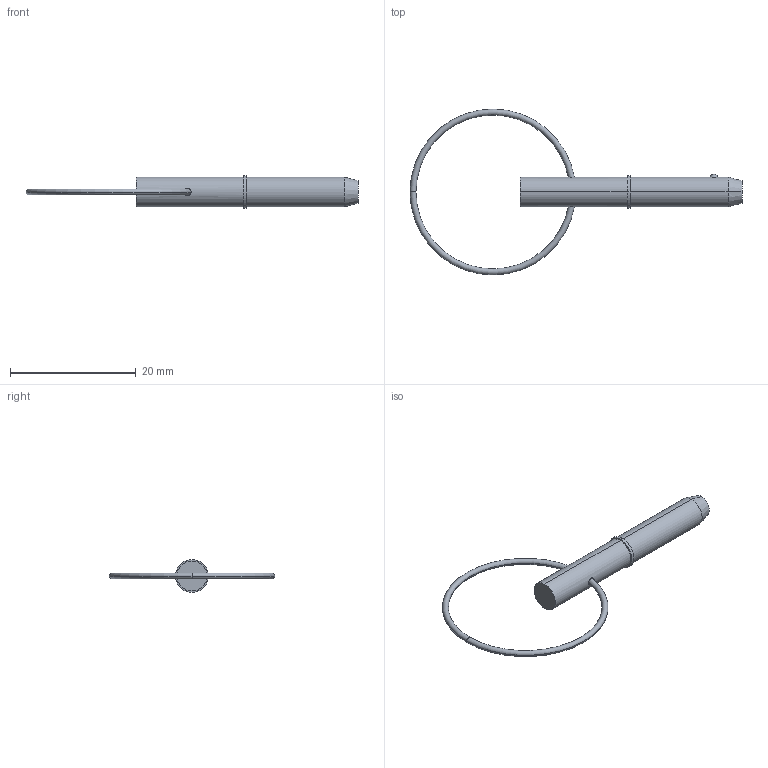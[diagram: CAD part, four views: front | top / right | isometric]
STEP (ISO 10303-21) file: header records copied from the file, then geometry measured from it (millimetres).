
FILE_DESCRIPTION (( 'STEP AP203' ), '1' );
FILE_NAME ('33016.W1805.step', '2024-11-07T11:00:49', ( '' ), ( '' ), 'SwSTEP 2.0', 'SolidWorks 2019', '' );
FILE_SCHEMA (( 'CONFIG_CONTROL_DESIGN' ));
Length unit declared in the file: millimetre
Products named in the file (3): Part1_33016.W1805; 33016.W1805; Part2_33016.W1805
Assembly tree (2 placements, depth 2):
  33016.W1805
    Part1_33016.W1805
    Part2_33016.W1805
Bounding box: 52.76 x 26.35 x 5.24 mm (x, y, z)
Volume: 671.5 mm3; surface area: 814.3 mm2
Topology: 2 solids, 2 shells, 22 faces, 43 edges, 26 vertices
Faces by surface type: torus 8, cylinder 6, plane 4, sphere 2, cone 2
Entity records: 941 total; most frequent: CARTESIAN_POINT 164, DIRECTION 120, ORIENTED_EDGE 86, AXIS2_PLACEMENT_3D 56, EDGE_CURVE 43, CIRCLE 29, EDGE_LOOP 27, VERTEX_POINT 26
